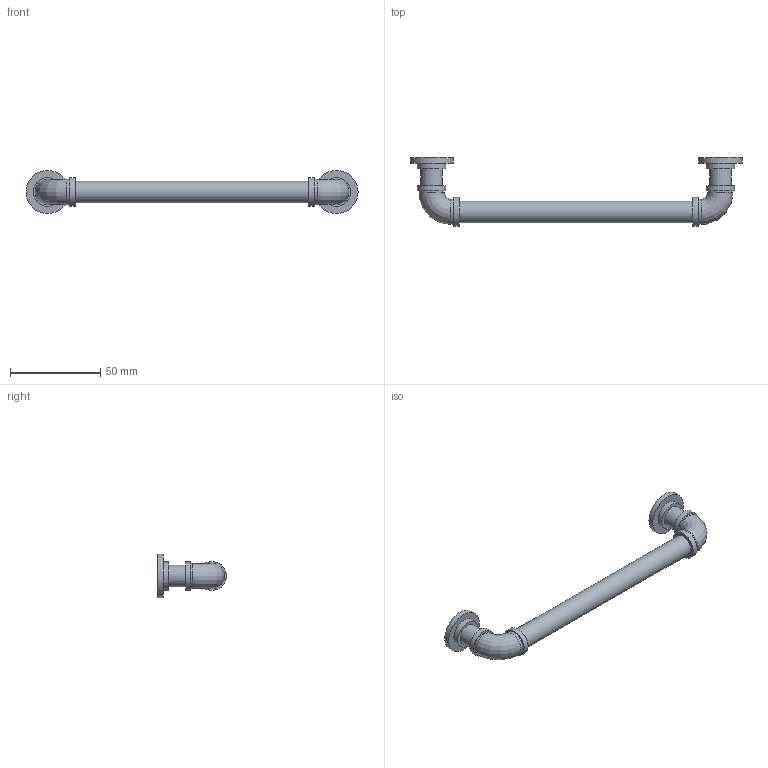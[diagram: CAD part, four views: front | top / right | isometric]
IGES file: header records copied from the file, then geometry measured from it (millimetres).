
Start section: Data from Parasolid IGES Translator 20.0.26, Copyright(c) 2006 Siemens P LM Software. All Rights Reserved.
Global section: file name: 9266563.igs; native system: By Siemens PLM Incorporated; preprocessor: XPlus GENERIC/IGES 20.0.26; author: Noname; organization: Noname; date: 20200630.121709; units: millimetre
Bounding box: 184 x 38 x 24 mm (x, y, z)
Surface area: 10911.4 mm2 (no closed solid volume)
Topology: 0 solids, 0 shells, 35 faces, 114 edges, 86 vertices
Faces by surface type: revolution 19, extrusion 16
